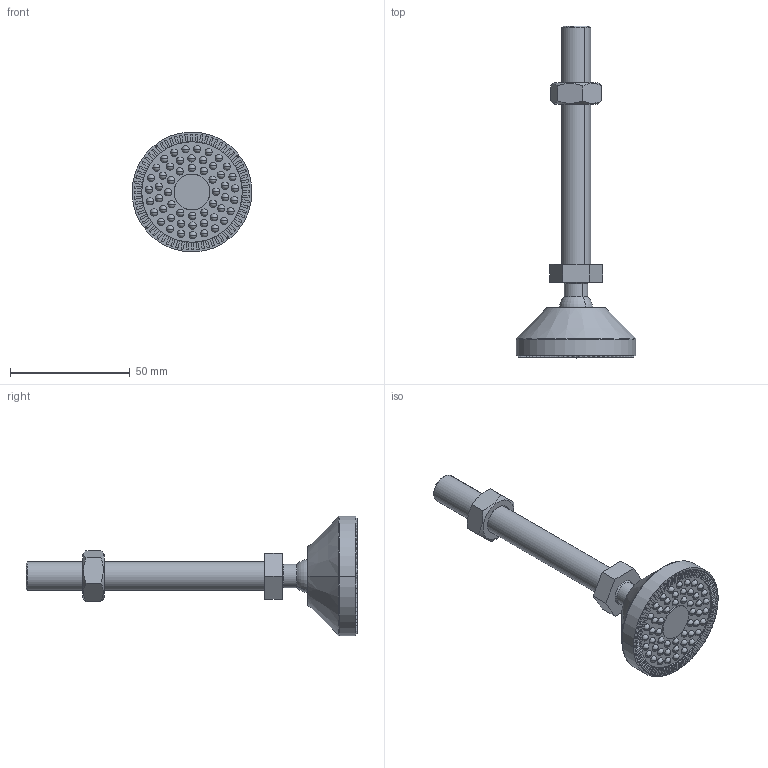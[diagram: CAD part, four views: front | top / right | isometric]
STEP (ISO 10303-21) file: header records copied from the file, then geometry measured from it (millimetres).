
FILE_DESCRIPTION (( 'STEP AP203' ), '1' );
FILE_NAME ('7040.STEP', '2016-04-17T11:31:19', ( '' ), ( '' ), 'SwSTEP 2.0', 'SolidWorks 2014', '' );
FILE_SCHEMA (( 'CONFIG_CONTROL_DESIGN' ));
Length unit declared in the file: millimetre
Products named in the file (5): 7040; Ïîäîøâà ïîâîðîòíàÿ 50ìì; Øïèëüêà Ì12 100ìì; Ãàéêà áåç äûðêè Ì12; Ïðîêëàäêà îò ñêîëüæåíèÿ ïîä 50ìì
Assembly tree (4 placements, depth 2):
  7040
    Ïîäîøâà ïîâîðîòíàÿ 50ìì
    Øïèëüêà Ì12 100ìì
    Ãàéêà áåç äûðêè Ì12
    Ïðîêëàäêà îò ñêîëüæåíèÿ ïîä 50ìì
Bounding box: 50 x 138.49 x 50 mm (x, y, z)
Volume: 45284.3 mm3; surface area: 16721.3 mm2
Topology: 4 solids, 4 shells, 681 faces, 2020 edges, 1299 vertices
Faces by surface type: plane 365, cylinder 188, sphere 106, cone 14, torus 8
Entity records: 21943 total; most frequent: DIRECTION 3850, CARTESIAN_POINT 3825, ORIENTED_EDGE 3616, EDGE_CURVE 1808, AXIS2_PLACEMENT_3D 1370, VERTEX_POINT 1193, VECTOR 1110, LINE 1110
